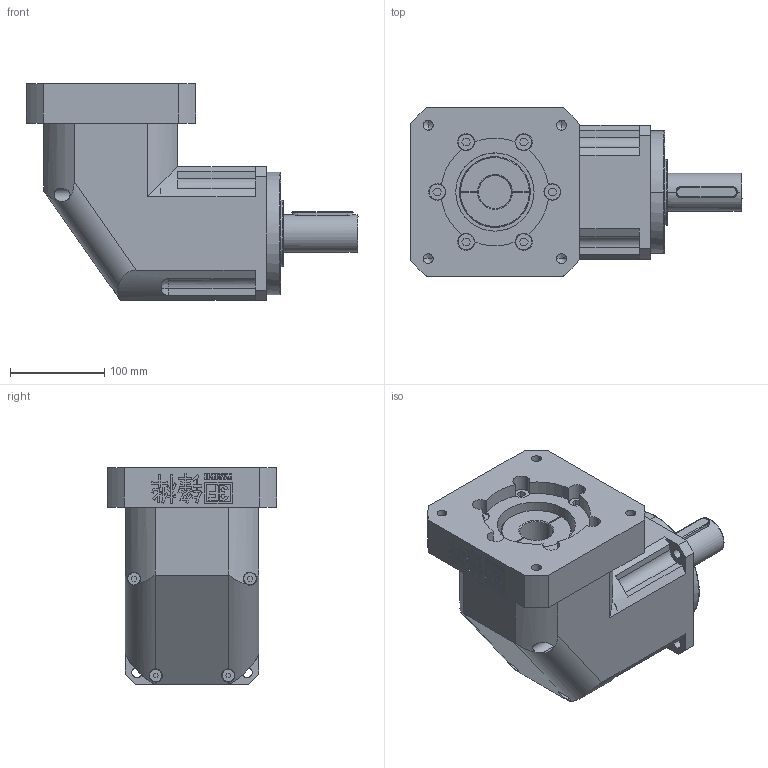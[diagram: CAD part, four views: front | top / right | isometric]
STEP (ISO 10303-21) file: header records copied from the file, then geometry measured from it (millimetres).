
FILE_DESCRIPTION (( 'STEP AP214' ), '1' );
FILE_NAME ('PAR142-L1-S2-P1 35-114-200-M12.STEP', '2019-08-23T06:20:37', ( '微软用户' ), ( '微软中国' ), 'SwSTEP 2.0', 'SolidWorks 2014', '' );
FILE_SCHEMA (( 'AUTOMOTIVE_DESIGN' ));
Length unit declared in the file: millimetre
Products named in the file (2): PAR142-L1-S2-P1  35-114-200-M12
Bounding box: 352 x 180 x 230 mm (x, y, z)
Volume: 5873973.1 mm3; surface area: 309150.3 mm2
Topology: 1 solids, 1 shells, 899 faces, 2588 edges, 1733 vertices
Faces by surface type: plane 701, cylinder 109, bspline 62, cone 18, torus 9
Entity records: 45833 total; most frequent: CARTESIAN_POINT 13113, ORIENTED_EDGE 5156, DIRECTION 4032, EDGE_CURVE 2578, LINE 2086, VECTOR 2086, VERTEX_POINT 1733, AXIS2_PLACEMENT_3D 973
